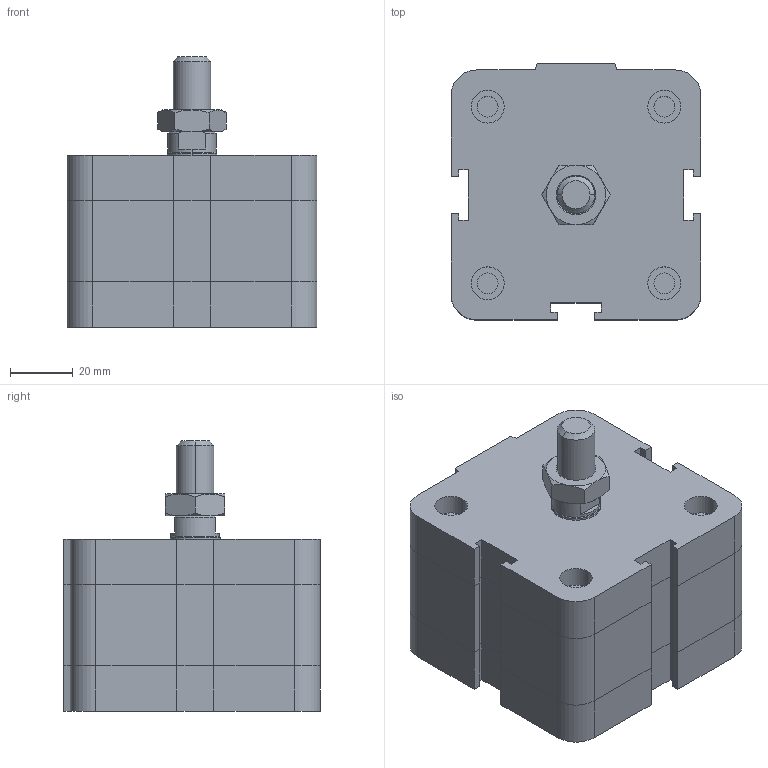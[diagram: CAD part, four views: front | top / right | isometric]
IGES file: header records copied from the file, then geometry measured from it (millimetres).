
Global section: file name: No Iges File Name specified; native system: Autodesk Inventor 2009; preprocessor: AutoDesk Inventor Iges Exporter R2009; author: rivolro1; date: 20081219.160447; units: millimetre
Bounding box: 80 x 82 x 86.5 mm (x, y, z)
Volume: 335065.8 mm3; surface area: 42048.3 mm2
Topology: 3 solids, 3 shells, 216 faces, 472 edges, 282 vertices
Faces by surface type: plane 121, bspline 37, cylinder 20, cone 20, revolution 18
